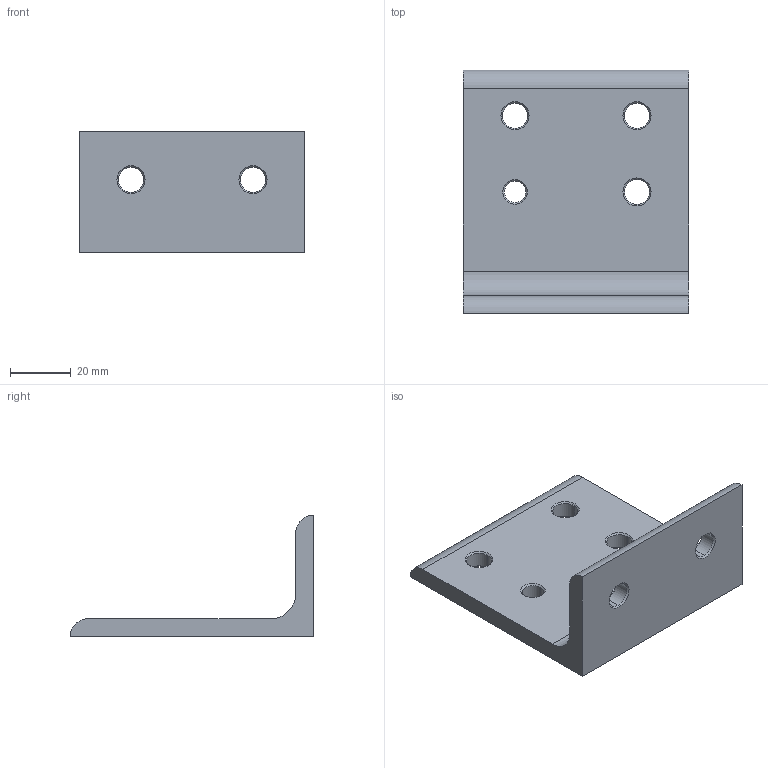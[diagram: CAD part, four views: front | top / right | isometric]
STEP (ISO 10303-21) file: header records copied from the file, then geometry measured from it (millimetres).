
FILE_DESCRIPTION (( 'STEP AP203' ), '1' );
FILE_NAME ('114080AL.STEP', '2017-04-27T10:36:42', ( '' ), ( '' ), 'SwSTEP 2.0', 'SolidWorks 2014', '' );
FILE_SCHEMA (( 'CONFIG_CONTROL_DESIGN' ));
Length unit declared in the file: millimetre
Products named in the file (1): 114080AL
Bounding box: 74 x 80 x 40 mm (x, y, z)
Volume: 48635.8 mm3; surface area: 18704.7 mm2
Topology: 1 solids, 1 shells, 45 faces, 105 edges, 62 vertices
Faces by surface type: cone 24, cylinder 15, plane 6
Entity records: 1382 total; most frequent: DIRECTION 251, CARTESIAN_POINT 213, ORIENTED_EDGE 210, EDGE_CURVE 105, AXIS2_PLACEMENT_3D 100, VERTEX_POINT 62, EDGE_LOOP 57, CIRCLE 54
